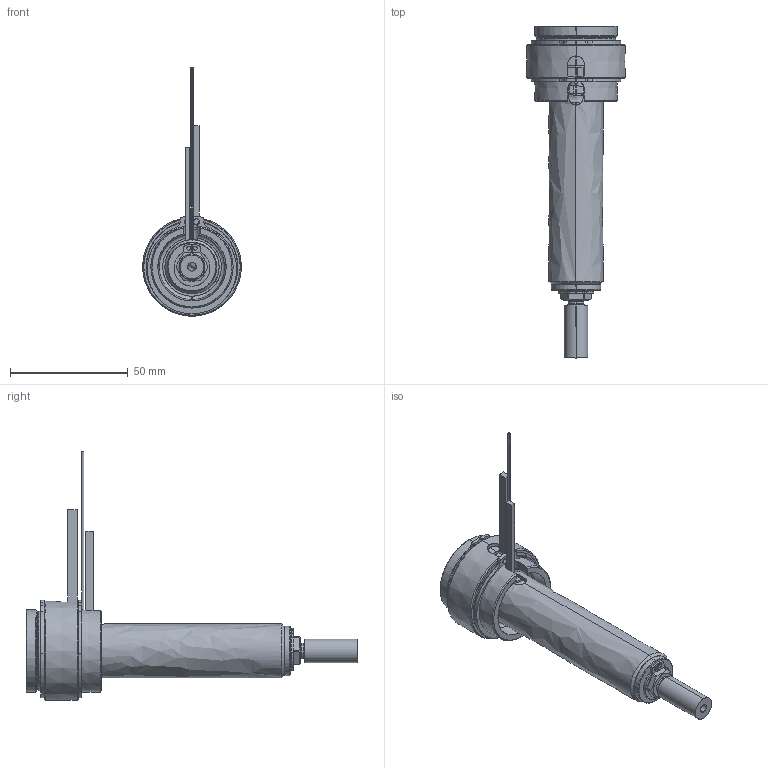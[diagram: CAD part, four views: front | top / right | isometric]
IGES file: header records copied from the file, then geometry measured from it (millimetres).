
Start section: SolidWorks IGES file using analytic representation for surfaces
Global section: file name: C:\Users\luca.EMPAD\Desktop\TEM\UGBE3502-S-A-P-3 [Ød-1.0 P-20 ØC-6.0].IGS; native system: SolidWorks 2012; preprocessor: SolidWorks 2012; author: luca; date: 120330.135521; units: millimetre
Bounding box: 42 x 141 x 105.6 mm (x, y, z)
Surface area: 29307.8 mm2 (no closed solid volume)
Topology: 0 solids, 0 shells, 188 faces, 3506 edges, 3506 vertices
Faces by surface type: revolution 120, bspline 68
